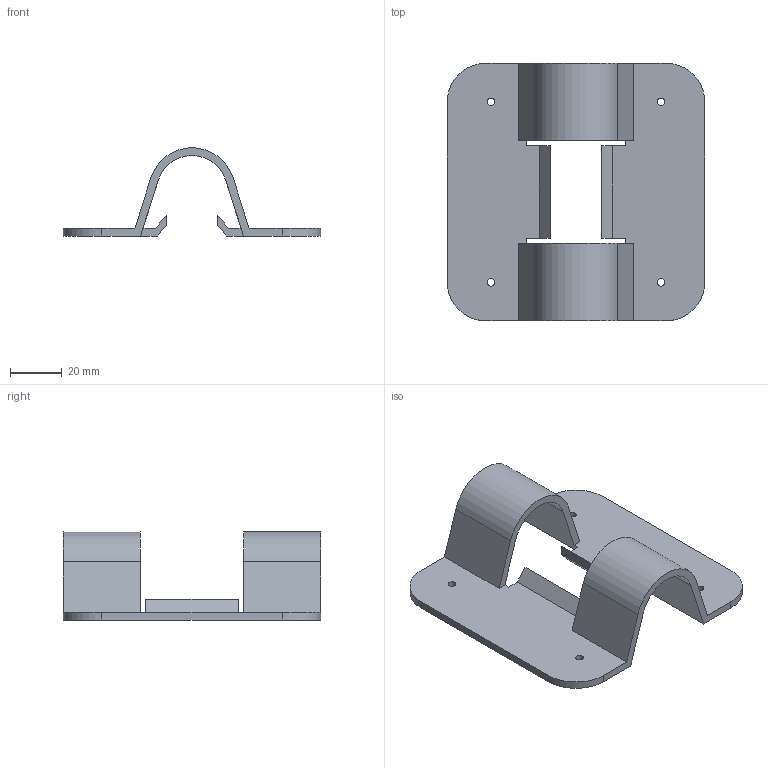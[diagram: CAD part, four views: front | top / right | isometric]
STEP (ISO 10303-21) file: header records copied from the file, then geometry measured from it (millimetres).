
FILE_DESCRIPTION (( 'STEP AP214' ), '1' );
FILE_NAME ('PJ-702.STEP', '2023-09-12T11:23:46', ( 'catia' ), ( 'HP Inc.' ), 'SwSTEP 2.0', 'SolidWorks 2021', '' );
FILE_SCHEMA (( 'AUTOMOTIVE_DESIGN' ));
Length unit declared in the file: millimetre
Products named in the file (1): PJ-702
Bounding box: 100 x 100 x 34.19 mm (x, y, z)
Volume: 34081.2 mm3; surface area: 25242 mm2
Topology: 1 solids, 1 shells, 44 faces, 132 edges, 88 vertices
Faces by surface type: plane 28, cylinder 16
Entity records: 1542 total; most frequent: CARTESIAN_POINT 265, ORIENTED_EDGE 264, DIRECTION 254, EDGE_CURVE 132, LINE 100, VECTOR 100, VERTEX_POINT 88, AXIS2_PLACEMENT_3D 77
